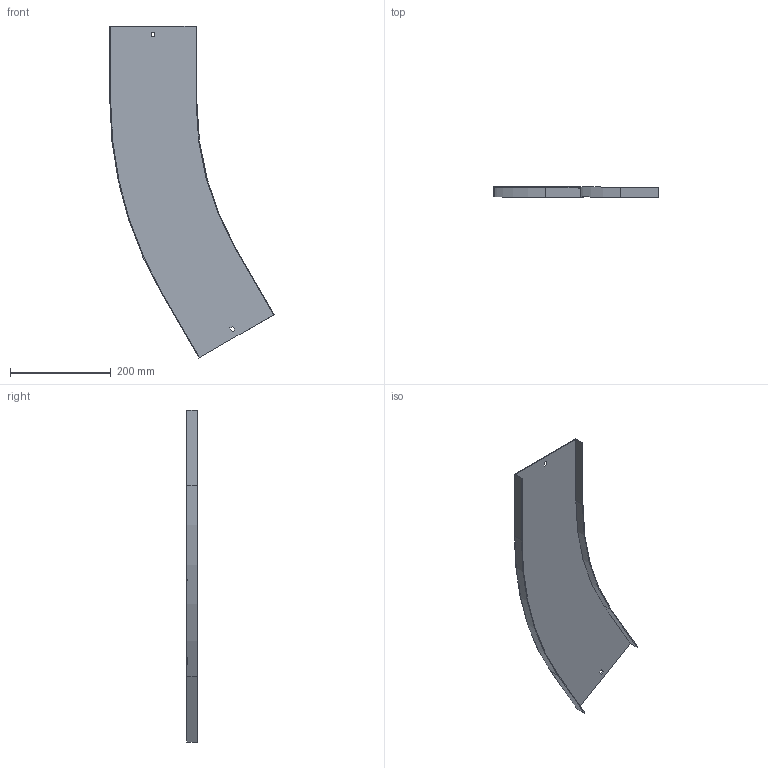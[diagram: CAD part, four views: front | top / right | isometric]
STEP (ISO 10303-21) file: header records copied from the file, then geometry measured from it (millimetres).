
FILE_DESCRIPTION (( 'STEP AP214' ), '1' );
FILE_NAME ('12N6P150.step', '2025-02-21T13:34:16', ( '' ), ( '' ), 'SwSTEP 2.0', 'SolidWorks 2023', '' );
FILE_SCHEMA (( 'AUTOMOTIVE_DESIGN' ));
Length unit declared in the file: millimetre
Products named in the file (1): 12N6P150
Bounding box: 326.84 x 20 x 660.65 mm (x, y, z)
Volume: 205654.7 mm3; surface area: 276889.5 mm2
Topology: 1 solids, 1 shells, 26 faces, 72 edges, 48 vertices
Faces by surface type: plane 22, cylinder 4
Entity records: 855 total; most frequent: CARTESIAN_POINT 147, ORIENTED_EDGE 144, DIRECTION 134, EDGE_CURVE 72, LINE 64, VECTOR 64, VERTEX_POINT 48, AXIS2_PLACEMENT_3D 35
